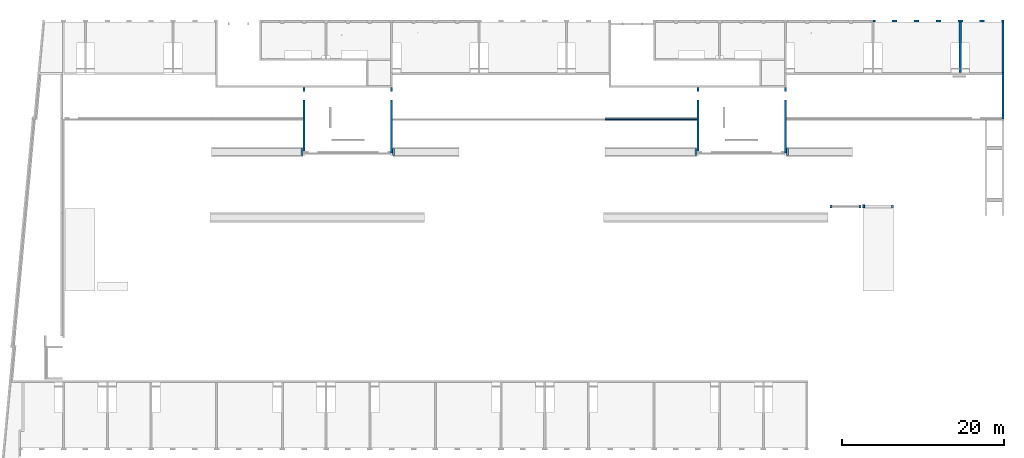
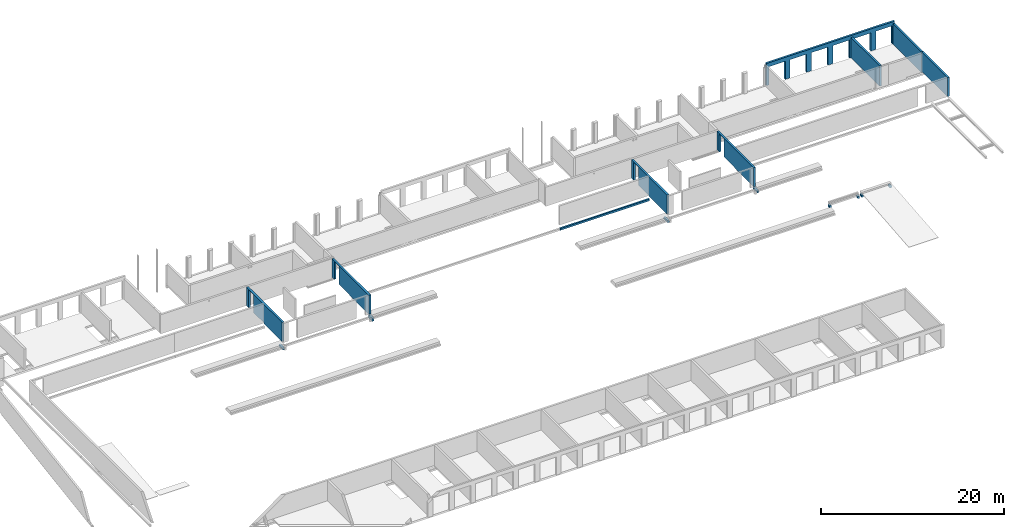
# One storey, part 15 of 18: 17 walls, 7 openings.
"""IFC2X3 building model written with IfcOpenShell, lengths in millimetres."""

from ifc_helpers import new_model, entity, si_unit, converted_unit, derived_unit, direction, frame, frame_2d, origin, origin_2d_with_axis, place, context, subcontext, project, spatial, rectangle, extrude, faceted_brep, material, layer, layer_set, layer_usage, type_object, element, save


model = new_model("IFC2X3")

# Units and contexts
model_context = context("Model", 3, precision=0.01, world=origin(), true_north=direction((6.12303176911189e-17, 1.0)))
body_context = subcontext(model_context, "Body", "Model", "MODEL_VIEW")
ifc_project = project(units=[si_unit("LENGTHUNIT", "METRE", prefix="MILLI"), si_unit("AREAUNIT", "SQUARE_METRE"), si_unit("VOLUMEUNIT", "CUBIC_METRE"), converted_unit("PLANEANGLEUNIT", "DEGREE", entity("IfcRatioMeasure", 0.0174532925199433), si_unit("PLANEANGLEUNIT", "RADIAN"), dimensions=[0, 0, 0, 0, 0, 0, 0]), si_unit("MASSUNIT", "GRAM", prefix="KILO"), derived_unit("MASSDENSITYUNIT", [(si_unit("MASSUNIT", "GRAM", prefix="KILO"), 1), (si_unit("LENGTHUNIT", "METRE"), -3)]), si_unit("TIMEUNIT", "SECOND"), si_unit("FREQUENCYUNIT", "HERTZ"), si_unit("THERMODYNAMICTEMPERATUREUNIT", "DEGREE_CELSIUS"), derived_unit("THERMALTRANSMITTANCEUNIT", [(si_unit("MASSUNIT", "GRAM", prefix="KILO"), 1), (si_unit("THERMODYNAMICTEMPERATUREUNIT", "KELVIN"), -1), (si_unit("TIMEUNIT", "SECOND"), -3)]), derived_unit("VOLUMETRICFLOWRATEUNIT", [(si_unit("LENGTHUNIT", "METRE"), 3), (si_unit("TIMEUNIT", "SECOND"), -1)]), si_unit("ELECTRICCURRENTUNIT", "AMPERE"), si_unit("ELECTRICVOLTAGEUNIT", "VOLT"), si_unit("POWERUNIT", "WATT"), si_unit("FORCEUNIT", "NEWTON", prefix="KILO"), si_unit("ILLUMINANCEUNIT", "LUX"), si_unit("LUMINOUSFLUXUNIT", "LUMEN"), si_unit("LUMINOUSINTENSITYUNIT", "CANDELA"), derived_unit("USERDEFINED", [(si_unit("MASSUNIT", "GRAM", prefix="KILO"), -1), (si_unit("LENGTHUNIT", "METRE"), -2), (si_unit("TIMEUNIT", "SECOND"), 3), (si_unit("LUMINOUSFLUXUNIT", "LUMEN"), 1)]), derived_unit("LINEARVELOCITYUNIT", [(si_unit("LENGTHUNIT", "METRE"), 1), (si_unit("TIMEUNIT", "SECOND"), -1)]), si_unit("PRESSUREUNIT", "PASCAL"), derived_unit("USERDEFINED", [(si_unit("LENGTHUNIT", "METRE"), -2), (si_unit("MASSUNIT", "GRAM", prefix="KILO"), 1), (si_unit("TIMEUNIT", "SECOND"), -2)])], contexts=[model_context])

# Site, building, storey
site_placement = place(None, origin())
site = spatial("IfcSite", under=ifc_project, at=site_placement, Name="Default", CompositionType="ELEMENT")
building_placement = place(site_placement, origin())
building = spatial("IfcBuilding", under=site, at=building_placement, Name="niet gebruiken", CompositionType="ELEMENT")
storey_placement = place(building_placement, frame((0.0, 0.0, 3690.0)))
storey = spatial("IfcBuildingStorey", under=building, at=storey_placement, Name="01 eerste verdieping", CompositionType="ELEMENT", Elevation=3690.00000000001)

# Walls
ifc_material_1 = material(Name="NLRS_f2_beton ihwg")
ifc_layer_1 = layer(ifc_material_1, 250.0)
ifc_layer_set_1 = layer_set([ifc_layer_1], Name="Basic Wall:NLRS_22.21_WA_beton ihwg d=250_gen")
wall_type_1 = type_object("IfcWallType", Name="Basic Wall:NLRS_22.21_WA_beton ihwg d=250_gen", PredefinedType="STANDARD", material=ifc_layer_set_1)
wall_1_placement = place(storey_placement, frame((48600.0, 36856.0, 30.0), z_axis=(0.0, 0.0, 1.0), x_axis=(0.0, 1.0, 0.0)))
element("IfcWall", 1, at=wall_1_placement, inside=storey, type_object=wall_type_1, Name="Basic Wall:NLRS_22.21_WA_beton ihwg d=250_gen", ObjectType="Basic Wall:NLRS_22.21_WA_beton ihwg d=250_gen", context=body_context, shape_type="Brep", body=[
    faceted_brep([(6530.0, -125.0, 2470.0), (7555.0, -125.0, 2470.0), (7555.0, -125.0, 90.0), (8050.0, -125.0, 90.0), (8050.0, -125.0, 2550.0), (0.0, -125.0, 2550.0), (0.0, -125.0, 1940.0), (0.0, -125.0, 0.0), (4205.0, -125.0, 0.0), (4205.0, -125.0, 90.0), (4630.0, -125.0, 90.0), (5530.0, -125.0, 90.0), (6530.0, -125.0, 90.0), (7555.0, 125.0, 2470.0), (6530.0, 125.0, 2470.0), (6530.0, 125.0, 90.0), (4205.0, 125.0, 90.0), (4205.0, 125.0, 0.0), (250.0, 125.0, 0.0), (0.0, 125.0, 0.0), (0.0, 125.0, 1940.0), (0.0, 125.0, 2550.0), (250.0, 125.0, 2550.0), (8050.0, 125.0, 2550.0), (8050.0, 125.0, 90.0), (7555.0, 125.0, 90.0), (8050.0, 105.0, 2550.0), (4205.0, 125.000150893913, 90.0)], [[[0, 1, 2, 3, 4, 5, 6, 7, 8, 9, 10, 11, 12]], [[13, 14, 15, 16, 17, 18, 19, 20, 21, 22, 23, 24, 25]], [[7, 19, 18, 17, 8]], [[14, 0, 12, 15]], [[0, 14, 13, 1]], [[1, 13, 25, 2]], [[19, 7, 6, 5, 21, 20]], [[23, 26, 4, 3, 24]], [[5, 4, 26, 23, 22, 21]], [[9, 16, 15, 12, 11, 10]], [[27, 9, 8, 17]], [[3, 2, 25, 24]]]),
])
wall_2_placement = place(storey_placement, frame((37800.0, 37106.0, 30.0), z_axis=(0.0, 0.0, 1.0), x_axis=(0.0, 1.0, 0.0)))
element("IfcWall", 2, at=wall_2_placement, inside=storey, type_object=wall_type_1, Name="Basic Wall:NLRS_22.21_WA_beton ihwg d=250_gen", ObjectType="Basic Wall:NLRS_22.21_WA_beton ihwg d=250_gen", context=body_context, shape_type="Brep", body=[
    faceted_brep([(6280.0, -125.0, 2470.0), (7305.0, -125.0, 2470.0), (7305.0, -125.0, 90.0), (7800.0, -125.0, 90.0), (7800.0, -125.0, 2550.0), (720.0, -125.0, 2550.0), (0.0, -125.0, 2550.0), (0.0, -125.0, 0.0), (3955.0, -125.0, 0.0), (3955.0, -125.0, 90.0), (6280.0, -125.0, 90.0), (7305.0, 125.0, 2470.0), (6280.0, 125.0, 2470.0), (6280.0, 125.0, 90.0), (5280.0, 125.0, 90.0), (4380.0, 125.0, 90.0), (4205.0, 125.0, 90.0), (3955.0, 125.0, 90.0), (3955.0, 125.0, 0.0), (0.0, 125.0, 0.0), (0.0, 125.0, 2550.0), (7800.0, 125.0, 2550.0), (7800.0, 125.0, 90.0), (7305.0, 125.0, 90.0)], [[[0, 1, 2, 3, 4, 5, 6, 7, 8, 9, 10]], [[11, 12, 13, 14, 15, 16, 17, 18, 19, 20, 21, 22, 23]], [[7, 19, 18, 8]], [[21, 4, 3, 22]], [[12, 0, 10, 13]], [[0, 12, 11, 1]], [[1, 11, 23, 2]], [[19, 7, 6, 20]], [[5, 4, 21, 20, 6]], [[3, 2, 23, 22]], [[17, 9, 8, 18]], [[9, 17, 16, 15, 14, 13, 10]]]),
])
ifc_layer_usage_1 = layer_usage(ifc_layer_set_1, "AXIS2", "NEGATIVE", 125.0)
wall_3_placement = place(storey_placement, frame((118800.0, 46746.0, -90.0), z_axis=(0.0, 0.0, 1.0), x_axis=(0.0, 1.0, 0.0)))
element("IfcWallStandardCase", 3, at=wall_3_placement, inside=storey, type_object=wall_type_1, material=ifc_layer_usage_1, Name="Basic Wall:NLRS_22.21_WA_beton ihwg d=250_gen", ObjectType="Basic Wall:NLRS_22.21_WA_beton ihwg d=250_gen", context=body_context, shape_type="SweptSolid", body=[
    extrude(rectangle(XDim=6239.99999999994, YDim=250.000000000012, at=frame_2d((3119.99999999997, -3.26849658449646e-12), x_axis=(-1.0, 0.0))), origin(), (0.0, 0.0, 1.0), 2720.00000000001),
])
ifc_layer_usage_2 = layer_usage(ifc_layer_set_1, "AXIS2", "NEGATIVE", 125.0)
wall_4_placement = place(storey_placement, frame((124075.0, 52986.0, -90.0), z_axis=(0.0, 0.0, 1.0), x_axis=(0.0, -1.0, 0.0)))
element("IfcWallStandardCase", 4, at=wall_4_placement, inside=storey, type_object=wall_type_1, material=ifc_layer_usage_2, Name="Basic Wall:NLRS_22.21_WA_beton ihwg d=250_gen", ObjectType="Basic Wall:NLRS_22.21_WA_beton ihwg d=250_gen", context=body_context, shape_type="SweptSolid", body=[
    extrude(rectangle(XDim=6239.99999999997, YDim=250.000000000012, at=frame_2d((3119.99999999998, -2.8421709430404e-14), x_axis=(-1.0, 0.0))), origin(), (0.0, 0.0, 1.0), 2720.000000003),
])
ifc_layer_usage_3 = layer_usage(ifc_layer_set_1, "AXIS2", "NEGATIVE", 125.0)
wall_5_placement = place(storey_placement, frame((124075.0, 46746.0, 120.0), z_axis=(0.0, 0.0, 1.0), x_axis=(0.0, -1.0, 0.0)))
element("IfcWallStandardCase", 5, at=wall_5_placement, inside=storey, type_object=wall_type_1, material=ifc_layer_usage_3, Name="Basic Wall:NLRS_22.21_WA_beton ihwg d=250_gen", ObjectType="Basic Wall:NLRS_22.21_WA_beton ihwg d=250_gen", context=body_context, shape_type="SweptSolid", body=[
    extrude(rectangle(XDim=5684.99999999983, YDim=250.000000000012, at=frame_2d((2842.49999999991, 0.0), x_axis=(-1.0, 0.0))), origin(), (0.0, 0.0, 1.0), 2550.0),
])
wall_6_placement = place(storey_placement, frame((97200.0, 36856.0, 30.0), z_axis=(0.0, 0.0, 1.0), x_axis=(0.0, 1.0, 0.0)))
element("IfcWall", 6, at=wall_6_placement, inside=storey, type_object=wall_type_1, Name="Basic Wall:NLRS_22.21_WA_beton ihwg d=250_gen", ObjectType="Basic Wall:NLRS_22.21_WA_beton ihwg d=250_gen", context=body_context, shape_type="Brep", body=[
    faceted_brep([(6530.0, -125.0, 2470.0), (7555.0, -125.0, 2470.0), (7555.0, -125.0, 90.0), (8050.0, -125.0, 90.0), (8050.0, -125.0, 2550.0), (0.0, -125.0, 2550.0), (0.0, -125.0, 1940.0), (0.0, -125.0, 0.0), (4205.0, -125.0, 0.0), (4205.0, -125.0, 90.0), (4455.0, -125.0, 90.0), (4630.0, -125.0, 90.0), (5530.0, -125.0, 90.0), (6530.0, -125.0, 90.0), (7555.0, 125.0, 2470.0), (6530.0, 125.0, 2470.0), (6530.0, 125.0, 90.0), (4205.0, 125.0, 90.0), (4205.0, 125.0, 0.0), (250.0, 125.0, 0.0), (0.0, 125.0, 0.0), (0.0, 125.0, 1940.0), (0.0, 125.0, 2550.0), (250.0, 125.0, 2550.0), (8050.0, 125.0, 2550.0), (8050.0, 125.0, 90.0), (7555.0, 125.0, 90.0), (4205.0, 125.000150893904, 90.0)], [[[0, 1, 2, 3, 4, 5, 6, 7, 8, 9, 10, 11, 12, 13]], [[14, 15, 16, 17, 18, 19, 20, 21, 22, 23, 24, 25, 26]], [[7, 20, 19, 18, 8]], [[15, 0, 13, 16]], [[0, 15, 14, 1]], [[1, 14, 26, 2]], [[20, 7, 6, 5, 22, 21]], [[24, 4, 3, 25]], [[5, 4, 24, 23, 22]], [[9, 17, 16, 13, 12, 11, 10]], [[27, 9, 8, 18]], [[3, 2, 26, 25]]]),
])
wall_7_placement = place(storey_placement, frame((86400.0, 37106.0, 30.0), z_axis=(0.0, 0.0, 1.0), x_axis=(0.0, 1.0, 0.0)))
element("IfcWall", 7, at=wall_7_placement, inside=storey, type_object=wall_type_1, Name="Basic Wall:NLRS_22.21_WA_beton ihwg d=250_gen", ObjectType="Basic Wall:NLRS_22.21_WA_beton ihwg d=250_gen", context=body_context, shape_type="Brep", body=[
    faceted_brep([(6280.0, -125.0, 2470.0), (7305.0, -125.0, 2470.0), (7305.0, -125.0, 90.0), (7800.0, -125.0, 90.0), (7800.0, -125.0, 2550.0), (720.0, -125.0, 2550.0), (0.0, -125.0, 2550.0), (0.0, -125.0, 0.0), (3955.0, -125.0, 0.0), (3955.0, -125.0, 90.0), (6280.0, -125.0, 90.0), (7305.0, 125.0, 2470.0), (6280.0, 125.0, 2470.0), (6280.0, 125.0, 90.0), (5280.0, 125.0, 90.0), (4380.0, 125.0, 90.0), (3955.0, 125.0, 90.0), (3955.0, 125.0, 0.0), (0.0, 125.0, 0.0), (0.0, 125.0, 2550.0), (7800.0, 125.0, 2550.0), (7800.0, 125.0, 90.0), (7305.0, 125.0, 90.0)], [[[0, 1, 2, 3, 4, 5, 6, 7, 8, 9, 10]], [[11, 12, 13, 14, 15, 16, 17, 18, 19, 20, 21, 22]], [[7, 18, 17, 8]], [[20, 4, 3, 21]], [[12, 0, 10, 13]], [[0, 12, 11, 1]], [[1, 11, 22, 2]], [[18, 7, 6, 19]], [[5, 4, 20, 19, 6]], [[9, 16, 15, 14, 13, 10]], [[16, 9, 8, 17]], [[3, 2, 22, 21]]]),
])

# Wall, openings
ifc_material_2 = material(Name="NLRS_f2_beton prefab")
ifc_layer_2 = layer(ifc_material_2, 250.0)
ifc_layer_set_2 = layer_set([ifc_layer_2], Name="Basic Wall:NLRS_21.21_WA_beton prefab d=250_gen")
ifc_layer_usage_4 = layer_usage(ifc_layer_set_2, "AXIS2", "NEGATIVE", 125.0)
wall_type_2 = type_object("IfcWallType", Name="Basic Wall:NLRS_21.21_WA_beton prefab d=250_gen", PredefinedType="STANDARD", material=ifc_layer_set_2)
wall_8_placement = place(storey_placement, frame((108010.0, 53131.0, -70.0)))
wall_8 = element("IfcWallStandardCase", 8, at=wall_8_placement, inside=storey, type_object=wall_type_2, material=ifc_layer_usage_4, Name="Basic Wall:NLRS_21.21_WA_beton prefab d=250_gen", ObjectType="Basic Wall:NLRS_21.21_WA_beton prefab d=250_gen", context=body_context, shape_type="SweptSolid", body=[
    extrude(rectangle(XDim=16190.0000000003, YDim=249.999999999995, at=frame_2d((8095.00000000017, 2.0961010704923e-12), x_axis=(-1.0, 0.0))), origin(), (0.0, 0.0, 1.0), 2950.00000000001),
])
opening_1_placement = place(wall_8_placement, origin())
element("IfcOpeningElement", 9, at=opening_1_placement, cuts=wall_8, Name="Basic Wall:NLRS_21.21_WA_beton prefab d=250_gen", ObjectType="Opening", context=body_context, shape_type="SweptSolid", body=[
    extrude(rectangle(XDim=2440.0, YDim=2080.0, at=frame_2d((0.0, 8.64019966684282e-12), x_axis=(1.0, 0.0))), frame((14840.0, -1649.0, 1200.0), z_axis=(0.0, 1.0, 0.0), x_axis=(0.0, 0.0, 1.0)), (0.0, 0.0, 1.0), 3048.0),
])
opening_2_placement = place(wall_8_placement, origin())
element("IfcOpeningElement", 10, at=opening_2_placement, cuts=wall_8, Name="Basic Wall:NLRS_21.21_WA_beton prefab d=250_gen", ObjectType="Opening", context=body_context, shape_type="SweptSolid", body=[
    extrude(rectangle(XDim=2440.0, YDim=2080.0, at=frame_2d((0.0, 8.64019966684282e-12), x_axis=(1.0, 0.0))), frame((12140.0, -1649.0, 1200.0), z_axis=(0.0, 1.0, 0.0), x_axis=(0.0, 0.0, 1.0)), (0.0, 0.0, 1.0), 3048.0),
])
opening_3_placement = place(wall_8_placement, origin())
element("IfcOpeningElement", 11, at=opening_3_placement, cuts=wall_8, Name="Basic Wall:NLRS_21.21_WA_beton prefab d=250_gen", ObjectType="Opening", context=body_context, shape_type="SweptSolid", body=[
    extrude(rectangle(XDim=2440.0, YDim=2080.0, at=frame_2d((0.0, -8.64019966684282e-12), x_axis=(1.0, 0.0))), frame((9440.0, -1649.0, 1200.0), z_axis=(0.0, 1.0, 0.0), x_axis=(0.0, 0.0, 1.0)), (0.0, 0.0, 1.0), 3048.0),
])
opening_4_placement = place(wall_8_placement, origin())
element("IfcOpeningElement", 12, at=opening_4_placement, cuts=wall_8, Name="Basic Wall:NLRS_21.21_WA_beton prefab d=250_gen", ObjectType="Opening", context=body_context, shape_type="SweptSolid", body=[
    extrude(rectangle(XDim=2440.0, YDim=2080.0, at=frame_2d((0.0, 8.64019966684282e-12), x_axis=(1.0, 0.0))), frame((6740.0, -1649.0, 1200.0), z_axis=(0.0, 1.0, 0.0), x_axis=(0.0, 0.0, 1.0)), (0.0, 0.0, 1.0), 3048.0),
])
opening_5_placement = place(wall_8_placement, origin())
element("IfcOpeningElement", 13, at=opening_5_placement, cuts=wall_8, Name="Basic Wall:NLRS_21.21_WA_beton prefab d=250_gen", ObjectType="Opening", context=body_context, shape_type="SweptSolid", body=[
    extrude(rectangle(XDim=2440.0, YDim=2080.0, at=frame_2d((0.0, 8.64019966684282e-12), x_axis=(1.0, 0.0))), frame((4040.0, -1649.0, 1200.0), z_axis=(0.0, 1.0, 0.0), x_axis=(0.0, 0.0, 1.0)), (0.0, 0.0, 1.0), 3048.0),
])
opening_6_placement = place(wall_8_placement, origin())
element("IfcOpeningElement", 14, at=opening_6_placement, cuts=wall_8, Name="Basic Wall:NLRS_21.21_WA_beton prefab d=250_gen", ObjectType="Opening", context=body_context, shape_type="SweptSolid", body=[
    extrude(rectangle(XDim=2440.0, YDim=2080.0, at=frame_2d((0.0, 8.64019966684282e-12), x_axis=(1.0, 0.0))), frame((1340.0, -1649.0, 1200.0), z_axis=(0.0, 1.0, 0.0), x_axis=(0.0, 0.0, 1.0)), (0.0, 0.0, 1.0), 3048.0),
])
opening_7_placement = place(wall_8_placement, origin())
element("IfcOpeningElement", 15, at=opening_7_placement, cuts=wall_8, Name="Basic Wall:NLRS_21.21_WA_beton prefab d=250_gen", ObjectType="Opening", context=body_context, shape_type="SweptSolid", body=[
    extrude(rectangle(XDim=2440.0, YDim=2080.0, at=frame_2d((0.0, 8.64019966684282e-12), x_axis=(1.0, 0.0))), frame((12140.0, -1649.0, 4170.0), z_axis=(0.0, 1.0, 0.0), x_axis=(0.0, 0.0, 1.0)), (0.0, 0.0, 1.0), 3048.0),
])

# Walls
wall_type_3 = type_object("IfcWallType", Name="NLRS_21.21_SF_WPB_oplegnok ihwg beton_gen:200x250", PredefinedType="NOTDEFINED", material=ifc_material_1)
wall_9_placement = place(storey_placement, frame((74970.0, 40861.0, -460.0)))
element("IfcWall", 16, at=wall_9_placement, inside=storey, type_object=wall_type_3, material=ifc_material_1, Name="NLRS_21.21_SF_WPB_oplegnok ihwg beton_gen:200x250", ObjectType="NLRS_21.21_SF_WPB_oplegnok ihwg beton_gen:200x250", context=body_context, shape_type="Brep", body=[
    faceted_brep([(0.0, 200.0, 250.0), (0.0, 200.0, 0.0), (0.0, 0.0, 0.0), (0.0, 0.0, 250.0), (11285.0, 0.0, 0.0), (11285.0, 200.0, 0.0), (11285.0, 200.0, 240.0), (11285.0, 0.0, 240.0), (11279.9998491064, 200.0, 250.0), (11279.9998491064, 200.0, 240.0), (11279.9998491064, 0.0, 240.0), (11279.9998491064, 0.0, 250.0)], [[[0, 1, 2, 3]], [[4, 5, 6, 7]], [[1, 0, 8, 9, 6, 5]], [[3, 2, 4, 7, 10, 11]], [[0, 3, 11, 8]], [[2, 1, 5, 4]], [[9, 10, 7, 6]], [[10, 9, 8, 11]]]),
])
wall_type_4 = type_object("IfcWallType", Name="NLRS_21.21_SF_WPB_oplegnok ihwg beton_gen:250x400", PredefinedType="NOTDEFINED", material=ifc_material_1)
wall_10_placement = place(storey_placement, frame((48725.0, 36556.0, -830.0), z_axis=(0.0, 0.0, 1.0), x_axis=(0.0, 1.0, 0.0)))
element("IfcWall", 17, at=wall_10_placement, inside=storey, type_object=wall_type_4, material=ifc_material_1, Name="NLRS_21.21_SF_WPB_oplegnok ihwg beton_gen:250x400", ObjectType="NLRS_21.21_SF_WPB_oplegnok ihwg beton_gen:250x400", context=body_context, shape_type="SweptSolid", body=[
    extrude(rectangle(XDim=850.000000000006, YDim=250.000000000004, at=frame_2d((25.000000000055, -24.9999999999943), x_axis=(1.0, 0.0))), frame((400.0, -100.0, 0.0)), (0.0, 0.0, 1.0), 400.000000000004),
])
wall_type_5 = type_object("IfcWallType", Name="NLRS_21.21_SF_WPB_oplegnok ihwg beton_gen:250x250", PredefinedType="NOTDEFINED", material=ifc_material_1)
wall_11_placement = place(storey_placement, frame((37425.0, 36556.0, -680.0), z_axis=(0.0, 0.0, 1.0), x_axis=(0.0, 1.0, 0.0)))
element("IfcWall", 18, at=wall_11_placement, inside=storey, type_object=wall_type_5, material=ifc_material_1, Name="NLRS_21.21_SF_WPB_oplegnok ihwg beton_gen:250x250", ObjectType="NLRS_21.21_SF_WPB_oplegnok ihwg beton_gen:250x250", context=body_context, shape_type="SweptSolid", body=[
    extrude(rectangle(XDim=249.999999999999, YDim=850.000000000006, at=frame_2d((-6.49436060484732e-12, 0.0), x_axis=(1.0, 0.0))), frame((425.0, -125.0, 0.0), z_axis=(0.0, 0.0, 1.0), x_axis=(0.0, -1.0, 0.0)), (0.0, 0.0, 1.0), 250.000000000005),
])
wall_12_placement = place(storey_placement, frame((97325.0, 36556.0, -680.0), z_axis=(0.0, 0.0, 1.0), x_axis=(0.0, 1.0, 0.0)))
element("IfcWall", 19, at=wall_12_placement, inside=storey, type_object=wall_type_5, material=ifc_material_1, Name="NLRS_21.21_SF_WPB_oplegnok ihwg beton_gen:250x250", ObjectType="NLRS_21.21_SF_WPB_oplegnok ihwg beton_gen:250x250", context=body_context, shape_type="SweptSolid", body=[
    extrude(rectangle(XDim=850.000000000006, YDim=249.999999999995, at=frame_2d((0.0, -8.66151594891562e-12), x_axis=(1.0, 0.0))), frame((425.0, -125.0, 0.0)), (0.0, 0.0, 1.0), 250.000000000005),
])
wall_13_placement = place(storey_placement, frame((86025.0, 36556.0, -680.0), z_axis=(0.0, 0.0, 1.0), x_axis=(0.0, 1.0, 0.0)))
element("IfcWall", 20, at=wall_13_placement, inside=storey, type_object=wall_type_5, material=ifc_material_1, Name="NLRS_21.21_SF_WPB_oplegnok ihwg beton_gen:250x250", ObjectType="NLRS_21.21_SF_WPB_oplegnok ihwg beton_gen:250x250", context=body_context, shape_type="SweptSolid", body=[
    extrude(rectangle(XDim=250.000000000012, YDim=850.000000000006, at=origin_2d_with_axis()), frame((425.0, -125.0, 0.0), z_axis=(0.0, 0.0, 1.0), x_axis=(0.0, -1.0, 0.0)), (0.0, 0.0, 1.0), 250.000000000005),
])
wall_type_6 = type_object("IfcWallType", Name="NLRS_21.21_SF_WPB_oplegnok prefabbeton_gen:250x270 met afschuining -9gr", PredefinedType="NOTDEFINED", material=ifc_material_2)
wall_14_placement = place(storey_placement, frame((106275.0, 30046.0, -649.596110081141), z_axis=(0.0, 0.0, 1.0), x_axis=(0.0, 1.0, 0.0)))
element("IfcWall", 21, at=wall_14_placement, inside=storey, type_object=wall_type_6, material=ifc_material_2, Name="NLRS_21.21_SF_WPB_oplegnok prefabbeton_gen:250x270 met afschuining -9gr", ObjectType="NLRS_21.21_SF_WPB_oplegnok prefabbeton_gen:250x270 met afschuining -9gr", context=body_context, shape_type="Brep", body=[
    faceted_brep([(0.0, 0.0, 309.596110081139), (0.0, 0.0, 39.5961100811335), (0.0, -250.0, 0.0), (0.0, -250.0, 309.596110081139), (380.0, 0.0, 309.596110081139), (380.0, -250.0, 309.596110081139), (380.0, -250.0, 0.0), (380.0, 0.0, 39.5961100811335)], [[[0, 1, 2, 3]], [[4, 5, 6, 7]], [[1, 0, 4, 7]], [[3, 2, 6, 5]], [[0, 3, 5, 4]], [[2, 1, 7, 6]]]),
])
wall_15_placement = place(storey_placement, frame((102725.0, 30046.0, -649.596110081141), z_axis=(0.0, 0.0, 1.0), x_axis=(0.0, 1.0, 0.0)))
element("IfcWall", 22, at=wall_15_placement, inside=storey, type_object=wall_type_6, material=ifc_material_2, Name="NLRS_21.21_SF_WPB_oplegnok prefabbeton_gen:250x270 met afschuining -9gr", ObjectType="NLRS_21.21_SF_WPB_oplegnok prefabbeton_gen:250x270 met afschuining -9gr", context=body_context, shape_type="Brep", body=[
    faceted_brep([(0.0, -250.0, 309.596110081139), (0.0, 0.0, 309.596110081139), (0.0, 0.0, 0.0), (0.0, -250.0, 39.5961100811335), (380.0, -250.0, 309.596110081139), (380.0, -250.0, 39.5961100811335), (380.0, 0.0, 0.0), (380.0, 0.0, 309.596110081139)], [[[0, 1, 2, 3]], [[4, 5, 6, 7]], [[3, 5, 4, 0]], [[1, 7, 6, 2]], [[0, 4, 7, 1]], [[2, 6, 5, 3]]]),
])
wall_16_placement = place(storey_placement, frame((110325.0, 30046.0, -649.596110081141), z_axis=(0.0, 0.0, 1.0), x_axis=(0.0, 1.0, 0.0)))
element("IfcWall", 23, at=wall_16_placement, inside=storey, type_object=wall_type_6, material=ifc_material_2, Name="NLRS_21.21_SF_WPB_oplegnok prefabbeton_gen:250x270 met afschuining -9gr", ObjectType="NLRS_21.21_SF_WPB_oplegnok prefabbeton_gen:250x270 met afschuining -9gr", context=body_context, shape_type="Brep", body=[
    faceted_brep([(0.0, 0.0, 309.596110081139), (0.0, 0.0, 39.5961100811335), (0.0, -250.0, 0.0), (0.0, -250.0, 309.596110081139), (380.0, 0.0, 309.596110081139), (380.0, -250.0, 309.596110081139), (380.0, -250.0, 0.0), (380.0, 0.0, 39.5961100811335)], [[[0, 1, 2, 3]], [[4, 5, 6, 7]], [[1, 0, 4, 7]], [[3, 2, 6, 5]], [[0, 3, 5, 4]], [[2, 1, 7, 6]]]),
])
wall_17_placement = place(storey_placement, frame((106765.0, 30046.0, -649.596110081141), z_axis=(0.0, 0.0, 1.0), x_axis=(0.0, 1.0, 0.0)))
element("IfcWall", 24, at=wall_17_placement, inside=storey, type_object=wall_type_6, material=ifc_material_2, Name="NLRS_21.21_SF_WPB_oplegnok prefabbeton_gen:250x270 met afschuining -9gr", ObjectType="NLRS_21.21_SF_WPB_oplegnok prefabbeton_gen:250x270 met afschuining -9gr", context=body_context, shape_type="Brep", body=[
    faceted_brep([(0.0, -250.0, 39.5961100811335), (0.0, -250.0, 309.596110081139), (0.0, -10.0, 309.596110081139), (0.0, -10.0, 1.58384440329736), (380.0, -250.0, 309.596110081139), (380.0, -250.0, 39.5961100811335), (380.0, -10.0, 1.58384440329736), (380.0, -10.0, 309.596110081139)], [[[0, 1, 2, 3]], [[4, 5, 6, 7]], [[1, 0, 5, 4]], [[1, 4, 7, 2]], [[5, 0, 3, 6]], [[3, 2, 7, 6]]]),
])

save(model, "model.ifc")
